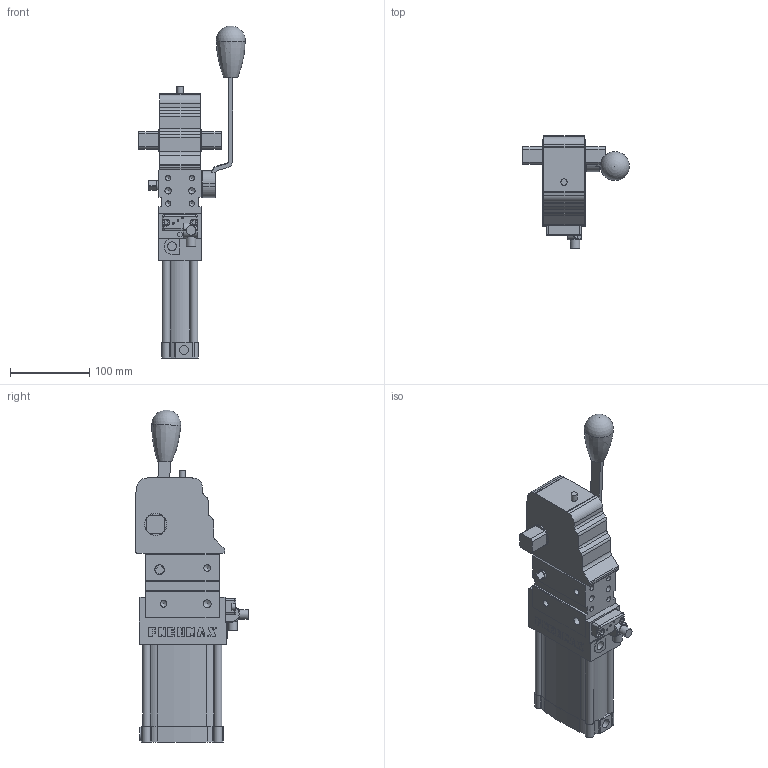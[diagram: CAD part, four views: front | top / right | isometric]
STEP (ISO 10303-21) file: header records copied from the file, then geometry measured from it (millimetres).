
FILE_DESCRIPTION(/* description */ (''),/* implementation_level */ '2;1');
FILE_NAME(/* name */ 'C:\PNX_VAULTFOLDER\Area Tecnica\Disegni\VARIE-3D\Componenti\7000\C##63##\C2D263EG.stp',/* time_stamp */ '2020-02-27T13:50:56+01:00',/* author */ ('donadda1'),/* organization */ (''),/* preprocessor_version */ 'ST-DEVELOPER v17',/* originating_system */ 'Autodesk Inventor 2019',/* authorisation */ '');
FILE_SCHEMA (('AUTOMOTIVE_DESIGN { 1 0 10303 214 3 1 1 }'));
Length unit declared in the file: millimetre
Products named in the file (5): C2D263EG; CHIUSURA 63 NAAMS-MANUALE; ES001; ES001_CONN_90°; HAND LEVER_50_D2
Assembly tree (4 placements, depth 2):
  C2D263EG
    CHIUSURA 63 NAAMS-MANUALE
    ES001
    ES001_CONN_90°
    HAND LEVER_50_D2
Bounding box: 134.24 x 141.6 x 418.08 mm (x, y, z)
Volume: 1697452 mm3; surface area: 155410.6 mm2
Topology: 4 solids, 4 shells, 421 faces, 1237 edges, 873 vertices
Faces by surface type: plane 233, cylinder 145, cone 22, bspline 10, torus 8, sphere 3
Full cylindrical faces by diameter (mm): 4.134 x2, 5 x4, 5.489 x4, 6.647 x8, 7.9 x1, 8 x4, 8.376 x4, 8.5 x4, 10 x2, 11.445 x2, 12 x4, 17 x2, 22 x1, 28 x2
Entity records: 14698 total; most frequent: CARTESIAN_POINT 2823, DIRECTION 2512, ORIENTED_EDGE 2432, EDGE_CURVE 1216, AXIS2_PLACEMENT_3D 893, VERTEX_POINT 873, LINE 726, VECTOR 726
